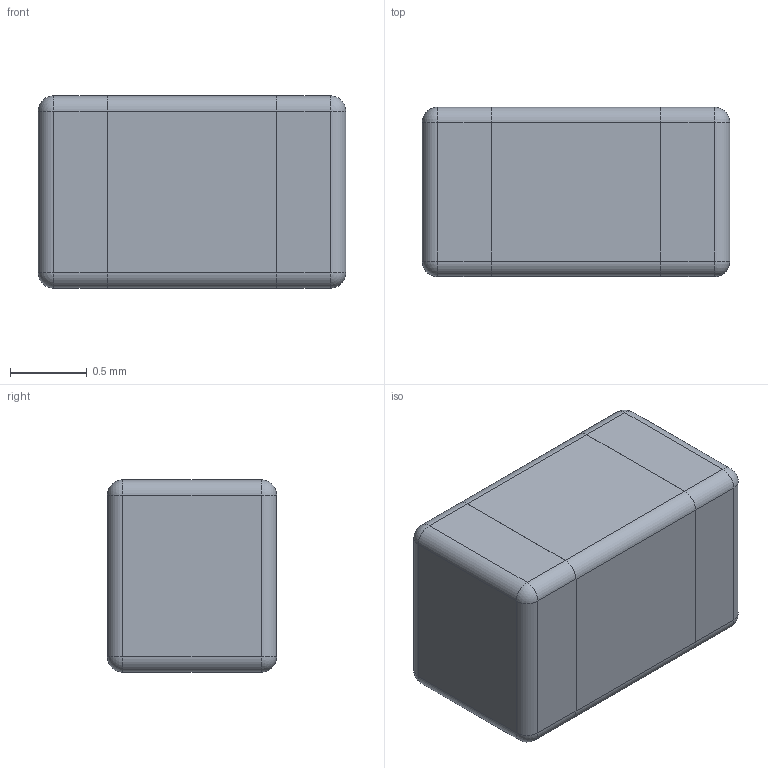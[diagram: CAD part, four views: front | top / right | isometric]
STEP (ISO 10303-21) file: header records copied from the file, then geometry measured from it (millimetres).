
FILE_DESCRIPTION (( 'STEP AP214' ), '1' );
FILE_NAME ( 'CAPC2012X110.STEP', '2013-08-13T09:46:12', ( '' ), ( '' ), 'FPX Expert 2013', 'PCB Libraries', '' );
FILE_SCHEMA (( 'AUTOMOTIVE_DESIGN' ));
Length unit declared in the file: millimetre
Products named in the file (1): CAPC2012X110
Bounding box: 2 x 1.1 x 1.25 mm (x, y, z)
Volume: 2.7 mm3; surface area: 16.9 mm2
Topology: 3 solids, 3 shells, 46 faces, 104 edges, 56 vertices
Faces by surface type: cylinder 20, plane 18, sphere 8
Entity records: 1380 total; most frequent: DIRECTION 230, CARTESIAN_POINT 199, ORIENTED_EDGE 192, EDGE_CURVE 96, AXIS2_PLACEMENT_3D 87, VERTEX_POINT 56, VECTOR 56, LINE 56
